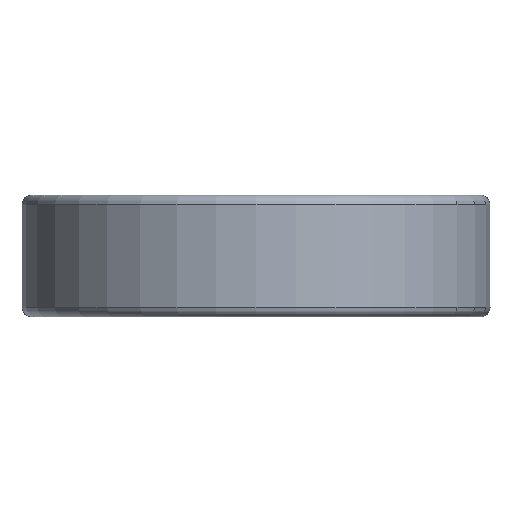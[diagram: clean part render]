
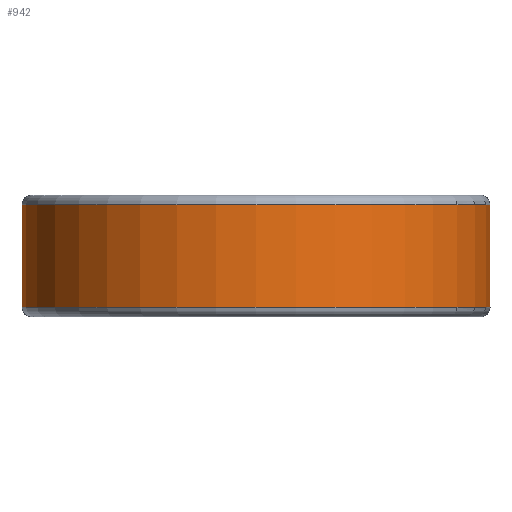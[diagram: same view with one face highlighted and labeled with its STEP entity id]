
A CAD part, left-side view. The second image highlights one B-rep face of the part: STEP entity #942.
In plain terms, the highlighted cylindrical face has radius 36.5 mm (diameter 73 mm), a partial arc.
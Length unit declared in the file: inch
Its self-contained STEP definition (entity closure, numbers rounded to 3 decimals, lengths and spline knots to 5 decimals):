
#62=DIRECTION('',(0.,0.,-1.));
#63=VECTOR('',#62,0.18771);
#64=CARTESIAN_POINT('',(1.39907,0.328,0.46787));
#65=LINE('',#64,#63);
#81=DIRECTION('',(0.,0.,1.));
#82=VECTOR('',#81,0.05589);
#83=CARTESIAN_POINT('',(1.39907,0.328,0.22427));
#84=LINE('',#83,#82);
#85=CARTESIAN_POINT('',(1.39907,0.328,0.52376));
#86=CARTESIAN_POINT('',(1.38604,0.38359,0.54448));
#87=CARTESIAN_POINT('',(1.35477,0.48722,0.58196));
#88=CARTESIAN_POINT('',(1.29861,0.62032,0.62236));
#89=CARTESIAN_POINT('',(1.23728,0.73423,0.64729));
#90=CARTESIAN_POINT('',(1.17439,0.83045,0.65724));
#91=CARTESIAN_POINT('',(1.11309,0.91046,0.65334));
#92=CARTESIAN_POINT('',(1.05585,0.97585,0.63704));
#93=CARTESIAN_POINT('',(1.00506,1.02774,0.6103));
#94=CARTESIAN_POINT('',(0.96263,1.06733,0.57575));
#95=CARTESIAN_POINT('',(0.92903,1.09653,0.53577));
#96=CARTESIAN_POINT('',(0.90405,1.1171,0.49193));
#97=CARTESIAN_POINT('',(0.88753,1.1302,0.44551));
#98=CARTESIAN_POINT('',(0.87936,1.13654,0.39761));
#99=CARTESIAN_POINT('',(0.87946,1.13647,0.34924));
#100=CARTESIAN_POINT('',(0.88784,1.12996,0.30136));
#101=CARTESIAN_POINT('',(0.90456,1.11669,0.255));
#102=CARTESIAN_POINT('',(0.92975,1.09592,0.21123));
#103=CARTESIAN_POINT('',(0.96354,1.06651,0.17138));
#104=CARTESIAN_POINT('',(1.0062,1.02663,0.13697));
#105=CARTESIAN_POINT('',(1.05732,0.97428,0.11039));
#106=CARTESIAN_POINT('',(1.11484,0.90835,0.09439));
#107=CARTESIAN_POINT('',(1.17634,0.82771,0.09088));
#108=CARTESIAN_POINT('',(1.23904,0.73125,0.10125));
#109=CARTESIAN_POINT('',(1.29988,0.6176,0.12642));
#110=CARTESIAN_POINT('',(1.35538,0.48538,0.16672));
#111=CARTESIAN_POINT('',(1.38621,0.38288,0.20382));
#112=CARTESIAN_POINT('',(1.39907,0.328,0.22427));
#114=DIRECTION('',(0.,0.,1.));
#115=VECTOR('',#114,0.05589);
#116=CARTESIAN_POINT('',(1.39907,0.328,0.46787));
#117=LINE('',#116,#115);
#118=CARTESIAN_POINT('',(0.,0.,0.05984));
#119=DIRECTION('',(0.,0.,-1.));
#120=DIRECTION('',(0.999,-0.043,0.));
#121=AXIS2_PLACEMENT_3D('',#118,#119,#120);
#123=CARTESIAN_POINT('',(1.161,-0.8468,0.23802));
#124=CARTESIAN_POINT('',(1.15022,-0.86158,
0.23802));
#125=CARTESIAN_POINT('',(1.12933,-0.88904,
0.24055));
#126=CARTESIAN_POINT('',(1.10031,-0.92462,
0.25104));
#127=CARTESIAN_POINT('',(1.07495,-0.95388,
0.26732));
#128=CARTESIAN_POINT('',(1.05428,-0.97658,
0.28809));
#129=CARTESIAN_POINT('',(1.03902,-0.99274,
0.31181));
#130=CARTESIAN_POINT('',(1.02923,-1.00285,0.33701));
#131=CARTESIAN_POINT('',(1.02455,-1.00762,0.36337));
#132=CARTESIAN_POINT('',(1.02508,-1.00707,0.38992));
#133=CARTESIAN_POINT('',(1.03068,-1.00136,0.41585));
#134=CARTESIAN_POINT('',(1.04128,-0.99037,
0.44039));
#135=CARTESIAN_POINT('',(1.05691,-0.97374,
0.46301));
#136=CARTESIAN_POINT('',(1.07735,-0.95115,
0.4825));
#137=CARTESIAN_POINT('',(1.10203,-0.92255,
0.49774));
#138=CARTESIAN_POINT('',(1.13014,-0.88799,
0.5076));
#139=CARTESIAN_POINT('',(1.15049,-0.86121,
0.51002));
#140=CARTESIAN_POINT('',(1.161,-0.8468,0.51002));
#142=CARTESIAN_POINT('',(1.161,-0.8468,0.51002));
#143=CARTESIAN_POINT('',(1.17077,-0.83341,
0.51002));
#144=CARTESIAN_POINT('',(1.18888,-0.80761,
0.50795));
#145=CARTESIAN_POINT('',(1.21212,-0.7722,
0.50075));
#146=CARTESIAN_POINT('',(1.23187,-0.7402,
0.49073));
#147=CARTESIAN_POINT('',(1.24852,-0.7117,
0.47874));
#148=CARTESIAN_POINT('',(1.26247,-0.68659,
0.46524));
#149=CARTESIAN_POINT('',(1.27404,-0.66482,
0.45039));
#150=CARTESIAN_POINT('',(1.28341,-0.6465,
0.4343));
#151=CARTESIAN_POINT('',(1.29054,-0.63211,
0.41689));
#152=CARTESIAN_POINT('',(1.29517,-0.62253,
0.39874));
#153=CARTESIAN_POINT('',(1.29722,-0.61824,
0.38061));
#154=CARTESIAN_POINT('',(1.29689,-0.61893,
0.36242));
#155=CARTESIAN_POINT('',(1.29419,-0.62457,
0.34464));
#156=CARTESIAN_POINT('',(1.28922,-0.63479,
0.32744));
#157=CARTESIAN_POINT('',(1.28201,-0.64927,
0.31109));
#158=CARTESIAN_POINT('',(1.27268,-0.66741,
0.2957));
#159=CARTESIAN_POINT('',(1.26119,-0.68893,
0.28142));
#160=CARTESIAN_POINT('',(1.24735,-0.71373,
0.26835));
#161=CARTESIAN_POINT('',(1.23086,-0.74187,
0.2567));
#162=CARTESIAN_POINT('',(1.21133,-0.77343,
0.24699));
#163=CARTESIAN_POINT('',(1.1884,-0.80829,
0.24001));
#164=CARTESIAN_POINT('',(1.17059,-0.83365,
0.23802));
#165=CARTESIAN_POINT('',(1.161,-0.8468,0.23802));
#385=CARTESIAN_POINT('',(1.43565,-0.0625,
0.05983));
#395=DIRECTION('',(0.,0.,1.));
#396=VECTOR('',#395,0.62837);
#397=CARTESIAN_POINT('',(1.43565,-0.0625,
0.05983));
#398=LINE('',#397,#396);
#407=CARTESIAN_POINT('',(1.43565,-0.0625,
0.6882));
#463=CARTESIAN_POINT('',(1.43565,0.0625,0.6882));
#473=DIRECTION('',(0.,0.,-1.));
#474=VECTOR('',#473,0.62837);
#475=CARTESIAN_POINT('',(1.43565,0.0625,0.6882));
#476=LINE('',#475,#474);
#485=CARTESIAN_POINT('',(1.43565,0.0625,0.05983));
#615=CARTESIAN_POINT('',(0.,0.,0.68819));
#616=DIRECTION('',(0.,0.,1.));
#617=DIRECTION('',(0.999,0.043,0.));
#618=AXIS2_PLACEMENT_3D('',#615,#616,#617);
#648=CARTESIAN_POINT('',(1.39907,0.328,0.46787));
#649=CARTESIAN_POINT('',(1.39907,0.328,0.28016));
#650=VERTEX_POINT('',#648);
#651=VERTEX_POINT('',#649);
#717=VERTEX_POINT('',#385);
#718=VERTEX_POINT('',#407);
#733=VERTEX_POINT('',#463);
#735=VERTEX_POINT('',#485);
#751=CARTESIAN_POINT('',(1.39907,0.328,0.22427));
#752=VERTEX_POINT('',#751);
#753=CARTESIAN_POINT('',(1.39907,0.328,0.52376));
#754=VERTEX_POINT('',#753);
#755=VERTEX_POINT('',#123);
#756=VERTEX_POINT('',#140);
#912=CARTESIAN_POINT('',(0.,0.,0.74803));
#913=DIRECTION('',(0.,0.,-1.));
#914=DIRECTION('',(-1.,0.,0.));
#915=AXIS2_PLACEMENT_3D('',#912,#913,#914);
#916=CYLINDRICAL_SURFACE('',#915,1.43701);
#918=ORIENTED_EDGE('',*,*,#917,.T.);
#920=ORIENTED_EDGE('',*,*,#919,.F.);
#922=ORIENTED_EDGE('',*,*,#921,.T.);
#924=ORIENTED_EDGE('',*,*,#923,.F.);
#925=EDGE_LOOP('',(#918,#920,#922,#924));
#926=FACE_OUTER_BOUND('',#925,.F.);
#928=ORIENTED_EDGE('',*,*,#927,.F.);
#930=ORIENTED_EDGE('',*,*,#929,.F.);
#932=ORIENTED_EDGE('',*,*,#931,.F.);
#933=ORIENTED_EDGE('',*,*,#875,.T.);
#934=EDGE_LOOP('',(#928,#930,#932,#933));
#935=FACE_BOUND('',#934,.F.);
#937=ORIENTED_EDGE('',*,*,#936,.F.);
#939=ORIENTED_EDGE('',*,*,#938,.F.);
#940=EDGE_LOOP('',(#937,#939));
#941=FACE_BOUND('',#940,.F.);
#113=B_SPLINE_CURVE_WITH_KNOTS('',3,(#85,#86,#87,#88,#89,#90,#91,#92,#93,#94,
#95,#96,#97,#98,#99,#100,#101,#102,#103,#104,#105,#106,#107,#108,#109,#110,#111,
#112),.UNSPECIFIED.,.F.,.F.,(4,1,1,1,1,1,1,1,1,1,1,1,1,1,1,1,1,1,1,1,1,1,1,1,1,
4),(0.,0.04,0.08,0.12,0.16,0.2,0.24,0.28,0.32,0.36,0.4,
0.44,0.48,0.52,0.56,0.6,0.64,0.68,0.72,0.76,0.8,0.84,
0.88,0.92,0.96,1.),.UNSPECIFIED.);
#122=CIRCLE('',#121,1.43701);
#141=B_SPLINE_CURVE_WITH_KNOTS('',3,(#123,#124,#125,#126,#127,#128,#129,#130,
#131,#132,#133,#134,#135,#136,#137,#138,#139,#140),.UNSPECIFIED.,.F.,.F.,(4,1,1,
1,1,1,1,1,1,1,1,1,1,1,1,4),(0.,0.06667,0.13333,0.2,
0.26667,0.33333,0.4,0.46667,0.53333,
0.6,0.66667,0.73333,0.8,0.86667,
0.93333,1.),.UNSPECIFIED.);
#166=B_SPLINE_CURVE_WITH_KNOTS('',3,(#142,#143,#144,#145,#146,#147,#148,#149,
#150,#151,#152,#153,#154,#155,#156,#157,#158,#159,#160,#161,#162,#163,#164,
#165),.UNSPECIFIED.,.F.,.F.,(4,1,1,1,1,1,1,1,1,1,1,1,1,1,1,1,1,1,1,1,1,4),(0.,
0.04762,0.09524,0.14286,0.19048,
0.2381,0.28571,0.33333,0.38095,
0.42857,0.47619,0.52381,0.57143,
0.61905,0.66667,0.71429,0.7619,
0.80952,0.85714,0.90476,0.95238,1.),
.UNSPECIFIED.);
#619=CIRCLE('',#618,1.43701);
#875=EDGE_CURVE('',#650,#651,#65,.T.);
#917=EDGE_CURVE('',#717,#735,#122,.T.);
#919=EDGE_CURVE('',#733,#735,#476,.T.);
#921=EDGE_CURVE('',#733,#718,#619,.T.);
#923=EDGE_CURVE('',#717,#718,#398,.T.);
#927=EDGE_CURVE('',#752,#651,#84,.T.);
#929=EDGE_CURVE('',#754,#752,#113,.T.);
#931=EDGE_CURVE('',#650,#754,#117,.T.);
#936=EDGE_CURVE('',#755,#756,#141,.T.);
#938=EDGE_CURVE('',#756,#755,#166,.T.);
#942=ADVANCED_FACE('',(#926,#935,#941),#916,.T.);
